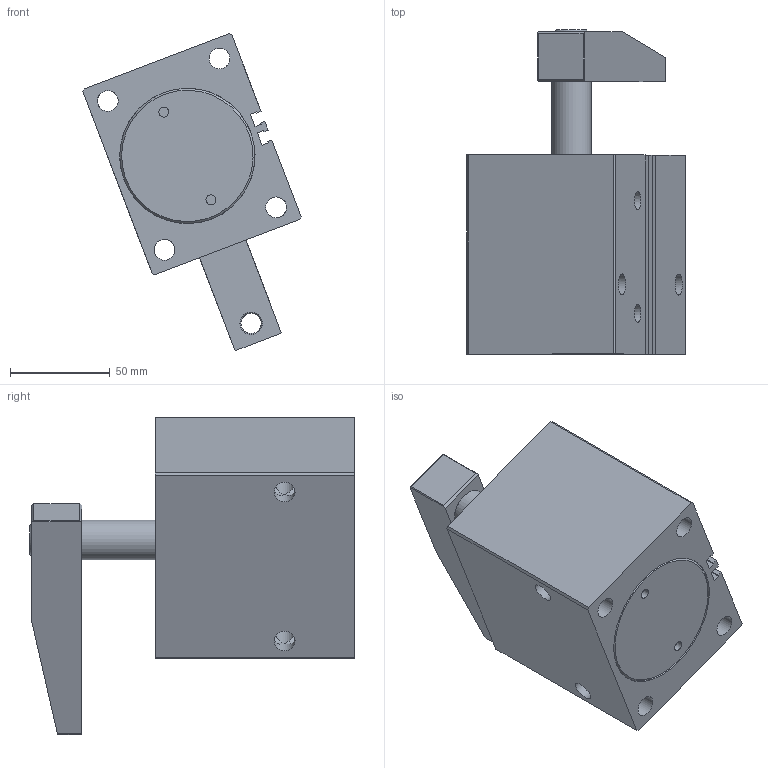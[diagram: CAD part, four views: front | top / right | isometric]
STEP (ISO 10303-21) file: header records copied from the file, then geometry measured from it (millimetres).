
FILE_DESCRIPTION(/* description */ ('STEP AP203'),/* implementation_level */ '2;1');
FILE_NAME(/* name */ 'E:\SERWER_ZAPAS\Pneumatic\PSB PNEUMATIC SWING\PSB-63\PSB-63R_OTWARTY.stp',/* time_stamp */ '2019-02-05T13:14:41+01:00',/* author */ ('Admin'),/* organization */ ('Î¢ÈíÖÐ¹ú'),/* preprocessor_version */ 'ST-DEVELOPER v17.2',/* originating_system */ 'Autodesk Inventor 2019',/* authorisation */ '');
FILE_SCHEMA (('AUTOMOTIVE_DESIGN { 1 0 10303 214 3 1 1 }'));
Length unit declared in the file: millimetre
Products named in the file (11): PSB-63R_OTWARTY; PSB-L63-90-15-15-01; PSB-L63-90-15-15-04; PSB-L63-90-15-15-02; PSB-L63-90-15-15-05; hexagon socket head cap screws gb_GB_FASTENER_SCREWS_HSHCS M10X20-N; s¸Ë2; ¸ÖÖé4; PSB-L63-90-15-15-03; 4x40; hex socket set screws with flat point gb_GB_FASTENER_SCREWS_HSFP M5X8
-N
Assembly tree (14 placements, depth 2):
  PSB-63R_OTWARTY
    PSB-L63-90-15-15-01
    ¸ÖÖé4  x3
    hex socket set screws with flat point gb_GB_FASTENER_SCREWS_HSFP M5X8
-N  x3
    PSB-L63-90-15-15-04
    PSB-L63-90-15-15-02
    PSB-L63-90-15-15-05
    hexagon socket head cap screws gb_GB_FASTENER_SCREWS_HSHCS M10X20-N
    s¸Ë2
    PSB-L63-90-15-15-03
    4x40
Bounding box: 109.64 x 163 x 159.22 mm (x, y, z)
Volume: 690074.4 mm3; surface area: 149373.2 mm2
Topology: 14 solids, 14 shells, 323 faces, 923 edges, 644 vertices
Faces by surface type: plane 145, cylinder 82, torus 32, cone 29, bspline 26, sphere 9
Full cylindrical faces by diameter (mm): 1.5 x2, 4 x10, 5 x5, 7.9 x2, 8.5 x1, 10 x1, 10.2 x1, 10.5 x14, 11 x1, 11.982 x2, 12 x2, 15.982 x1, 16 x1, 16.5 x4, 17 x1, 18 x1, 18.5 x1, 20 x2, 20.1 x2, 21 x3, 24.3 x1, 25.2 x1, 28 x2, 42 x1, 53 x1, 58.282 x1, 59 x1, 62.882 x2, 63 x5, 67.982 x1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
Entity records: 17071 total; most frequent: CARTESIAN_POINT 8835, DIRECTION 1710, ORIENTED_EDGE 1636, EDGE_CURVE 818, AXIS2_PLACEMENT_3D 722, VERTEX_POINT 582, CIRCLE 411, EDGE_LOOP 364
